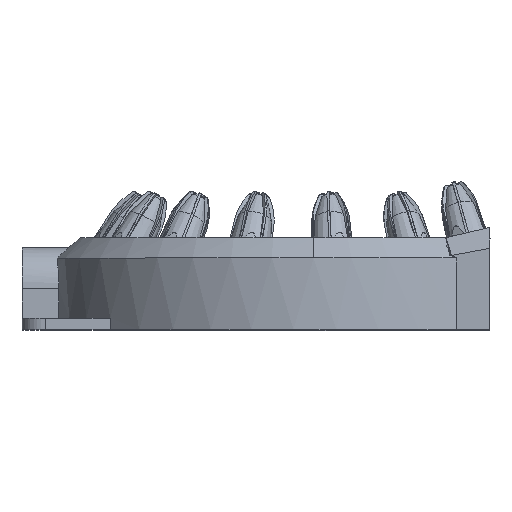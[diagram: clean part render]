
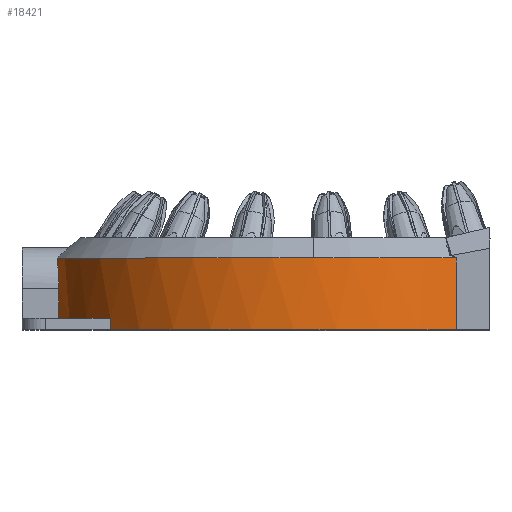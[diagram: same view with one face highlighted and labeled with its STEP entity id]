
A CAD part, top view. The second image highlights one B-rep face of the part: STEP entity #18421.
In plain terms, the highlighted cylindrical face has radius 109.726 mm (diameter 219.452 mm), a partial arc.
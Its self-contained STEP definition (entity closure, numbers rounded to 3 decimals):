
#16587 = VERTEX_POINT ( 'NONE', #33255 ) ;
#16733 = VERTEX_POINT ( 'NONE', #33320 ) ;
#16737 = EDGE_CURVE ( 'NONE', #16587, #16733, #33328, .T. ) ;
#16740 = VERTEX_POINT ( 'NONE', #33315 ) ;
#16745 = EDGE_CURVE ( 'NONE', #16733, #16740, #33322, .T. ) ;
#17911 = VERTEX_POINT ( 'NONE', #36071 ) ;
#17915 = VERTEX_POINT ( 'NONE', #36069 ) ;
#17919 = ORIENTED_EDGE ( 'NONE', *, *, #18358, .F. ) ;
#18050 = EDGE_CURVE ( 'NONE', #18350, #18278, #36219, .T. ) ;
#18066 = ORIENTED_EDGE ( 'NONE', *, *, #16745, .T. ) ;
#18069 = ORIENTED_EDGE ( 'NONE', *, *, #18428, .T. ) ;
#18274 = VERTEX_POINT ( 'NONE', #36879 ) ;
#18276 = EDGE_LOOP ( 'NONE', ( #18423, #18356, #17919, #18418, #18354, #18066, #18069, #18427 ) ) ;
#18278 = VERTEX_POINT ( 'NONE', #37388 ) ;
#18350 = VERTEX_POINT ( 'NONE', #37560 ) ;
#18352 = EDGE_CURVE ( 'NONE', #18274, #17915, #37565, .T. ) ;
#18354 = ORIENTED_EDGE ( 'NONE', *, *, #16737, .T. ) ;
#18356 = ORIENTED_EDGE ( 'NONE', *, *, #18352, .T. ) ;
#18358 = EDGE_CURVE ( 'NONE', #17911, #17915, #37607, .T. ) ;
#18363 = EDGE_CURVE ( 'NONE', #17911, #16587, #37589, .T. ) ;
#18416 = EDGE_CURVE ( 'NONE', #18278, #18274, #40127, .T. ) ;
#18418 = ORIENTED_EDGE ( 'NONE', *, *, #18363, .T. ) ;
#18421 = ADVANCED_FACE ( 'NONE', ( #40115 ), #40113, .T. ) ;
#18423 = ORIENTED_EDGE ( 'NONE', *, *, #18416, .T. ) ;
#18427 = ORIENTED_EDGE ( 'NONE', *, *, #18050, .T. ) ;
#18428 = EDGE_CURVE ( 'NONE', #16740, #18350, #40176, .T. ) ;
#33255 = CARTESIAN_POINT ( 'NONE',  ( 38.288, -8.2, 127.704 ) ) ;
#33306 = DIRECTION ( 'NONE',  ( 0., 0., -1. ) ) ;
#33307 = DIRECTION ( 'NONE',  ( 0., -1., 0. ) ) ;
#33308 = CARTESIAN_POINT ( 'NONE',  ( -22.397, -8.2, 36.286 ) ) ;
#33309 = DIRECTION ( 'NONE',  ( 0., 0., -1. ) ) ;
#33310 = DIRECTION ( 'NONE',  ( 0., -1., 0. ) ) ;
#33311 = CARTESIAN_POINT ( 'NONE',  ( -22.397, -8.2, 36.286 ) ) ;
#33312 = AXIS2_PLACEMENT_3D ( 'NONE', #33311, #33310, #33309 ) ;
#33315 = CARTESIAN_POINT ( 'NONE',  ( -131.494, -8.2, 48.011 ) ) ;
#33316 = AXIS2_PLACEMENT_3D ( 'NONE', #33308, #33307, #33306 ) ;
#33320 = CARTESIAN_POINT ( 'NONE',  ( -22.397, -8.2, 146.012 ) ) ;
#33322 = CIRCLE ( 'NONE', #33316, 109.726 ) ;
#33328 = CIRCLE ( 'NONE', #33312, 109.726 ) ;
#36069 = CARTESIAN_POINT ( 'NONE',  ( -108.904, -38.691, 103.786 ) ) ;
#36071 = CARTESIAN_POINT ( 'NONE',  ( 38.288, -38.691, 127.704 ) ) ;
#36216 = DIRECTION ( 'NONE',  ( 0., -1., 0. ) ) ;
#36217 = VECTOR ( 'NONE', #36216, 1000. ) ;
#36218 = CARTESIAN_POINT ( 'NONE',  ( -130.718, -33.691, 53.786 ) ) ;
#36219 = LINE ( 'NONE', #36218, #36217 ) ;
#36879 = CARTESIAN_POINT ( 'NONE',  ( -108.904, -33.691, 103.786 ) ) ;
#37388 = CARTESIAN_POINT ( 'NONE',  ( -130.718, -33.691, 53.786 ) ) ;
#37558 = CARTESIAN_POINT ( 'NONE',  ( -22.397, -38.691, 36.286 ) ) ;
#37559 = AXIS2_PLACEMENT_3D ( 'NONE', #37558, #37593, #37592 ) ;
#37560 = CARTESIAN_POINT ( 'NONE',  ( -130.718, -21.191, 53.786 ) ) ;
#37564 = CARTESIAN_POINT ( 'NONE',  ( -108.904, -33.691, 103.786 ) ) ;
#37565 = LINE ( 'NONE', #37564, #37609 ) ;
#37577 = DIRECTION ( 'NONE',  ( 0., 1., 0. ) ) ;
#37578 = VECTOR ( 'NONE', #37577, 1000. ) ;
#37587 = CARTESIAN_POINT ( 'NONE',  ( 38.288, -33.691, 127.704 ) ) ;
#37589 = LINE ( 'NONE', #37587, #37578 ) ;
#37592 = DIRECTION ( 'NONE',  ( 0., 0., -1. ) ) ;
#37593 = DIRECTION ( 'NONE',  ( 0., -1., 0. ) ) ;
#37607 = CIRCLE ( 'NONE', #37559, 109.726 ) ;
#37608 = DIRECTION ( 'NONE',  ( 0., -1., 0. ) ) ;
#37609 = VECTOR ( 'NONE', #37608, 1000. ) ;
#40096 = CARTESIAN_POINT ( 'NONE',  ( -22.397, -33.691, 36.286 ) ) ;
#40099 = DIRECTION ( 'NONE',  ( 0., 0., -1. ) ) ;
#40100 = DIRECTION ( 'NONE',  ( 0., 1., 0. ) ) ;
#40101 = AXIS2_PLACEMENT_3D ( 'NONE', #40116, #40100, #40099 ) ;
#40104 = AXIS2_PLACEMENT_3D ( 'NONE', #40096, #40142, #40144 ) ;
#40113 = CYLINDRICAL_SURFACE ( 'NONE', #40104, 109.726 ) ;
#40115 = FACE_OUTER_BOUND ( 'NONE', #18276, .T. ) ;
#40116 = CARTESIAN_POINT ( 'NONE',  ( -22.397, -33.691, 36.286 ) ) ;
#40127 = CIRCLE ( 'NONE', #40101, 109.726 ) ;
#40142 = DIRECTION ( 'NONE',  ( 0., -1., 0. ) ) ;
#40144 = DIRECTION ( 'NONE',  ( 0., 0., -1. ) ) ;
#40155 = CARTESIAN_POINT ( 'NONE',  ( -130.718, -21.191, 53.786 ) ) ;
#40156 = CARTESIAN_POINT ( 'NONE',  ( -130.718, -19.958, 53.786 ) ) ;
#40157 = CARTESIAN_POINT ( 'NONE',  ( -130.739, -18.741, 53.657 ) ) ;
#40158 = CARTESIAN_POINT ( 'NONE',  ( -130.8, -16.936, 53.272 ) ) ;
#40159 = CARTESIAN_POINT ( 'NONE',  ( -130.825, -16.343, 53.112 ) ) ;
#40160 = CARTESIAN_POINT ( 'NONE',  ( -130.883, -15.186, 52.734 ) ) ;
#40161 = CARTESIAN_POINT ( 'NONE',  ( -130.916, -14.619, 52.516 ) ) ;
#40162 = CARTESIAN_POINT ( 'NONE',  ( -130.988, -13.511, 52.022 ) ) ;
#40163 = CARTESIAN_POINT ( 'NONE',  ( -131.028, -12.97, 51.747 ) ) ;
#40164 = CARTESIAN_POINT ( 'NONE',  ( -131.113, -11.912, 51.136 ) ) ;
#40165 = CARTESIAN_POINT ( 'NONE',  ( -131.159, -11.394, 50.799 ) ) ;
#40166 = CARTESIAN_POINT ( 'NONE',  ( -131.299, -9.916, 49.725 ) ) ;
#40167 = CARTESIAN_POINT ( 'NONE',  ( -131.397, -9.016, 48.915 ) ) ;
#40168 = CARTESIAN_POINT ( 'NONE',  ( -131.494, -8.2, 48.011 ) ) ;
#40176 = B_SPLINE_CURVE_WITH_KNOTS ( 'NONE', 3,
 ( #40168, #40167, #40166, #40165, #40164, #40163, #40162, #40161, #40160, #40159, #40158, #40157, #40156, #40155 ),
 .UNSPECIFIED., .F., .F.,
 ( 4, 2, 2, 2, 2, 2, 4 ),
 ( 0.013, 0.016, 0.018, 0.02, 0.022, 0.024, 0.027 ),
 .UNSPECIFIED. ) ;
